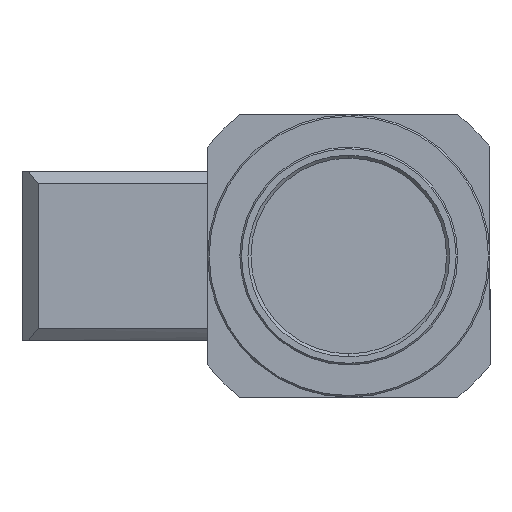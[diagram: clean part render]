
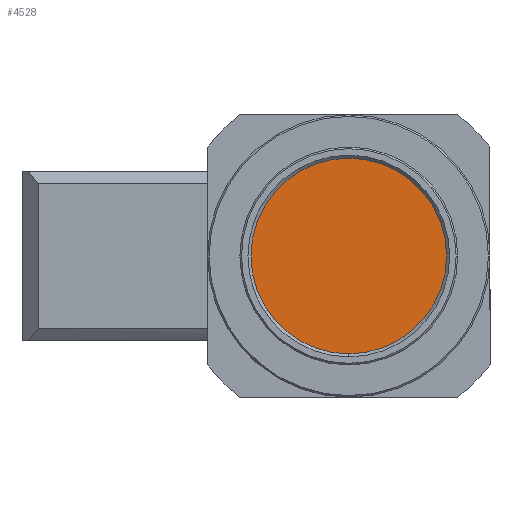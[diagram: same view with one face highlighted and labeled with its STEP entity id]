
A CAD part, left-side view. The second image highlights one B-rep face of the part: STEP entity #4528.
In plain terms, the highlighted planar face has unit normal (-1, 0, 0).
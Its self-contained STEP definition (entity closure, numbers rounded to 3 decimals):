
#371 = ORIENTED_EDGE ( 'NONE', *, *, #3888, .T. ) ;
#396 = AXIS2_PLACEMENT_3D ( 'NONE', #1294, #2114, #4944 ) ;
#573 = VERTEX_POINT ( 'NONE', #4808 ) ;
#650 = EDGE_CURVE ( 'NONE', #2698, #573, #913, .T. ) ;
#887 = PLANE ( 'NONE',  #396 ) ;
#913 = CIRCLE ( 'NONE', #4676, 12.5 ) ;
#1024 = DIRECTION ( 'NONE',  ( -1., 0., 0. ) ) ;
#1214 = DIRECTION ( 'NONE',  ( -1., 0., 0. ) ) ;
#1274 = AXIS2_PLACEMENT_3D ( 'NONE', #3465, #1024, #3870 ) ;
#1294 = CARTESIAN_POINT ( 'NONE',  ( 5.01, 12.5, 0. ) ) ;
#2114 = DIRECTION ( 'NONE',  ( 1., 0., 0. ) ) ;
#2190 = ORIENTED_EDGE ( 'NONE', *, *, #650, .T. ) ;
#2484 = EDGE_LOOP ( 'NONE', ( #371, #2190 ) ) ;
#2698 = VERTEX_POINT ( 'NONE', #3942 ) ;
#3465 = CARTESIAN_POINT ( 'NONE',  ( 5.01, 0., 0. ) ) ;
#3659 = CARTESIAN_POINT ( 'NONE',  ( 5.01, 0., 0. ) ) ;
#3677 = CIRCLE ( 'NONE', #1274, 12.5 ) ;
#3870 = DIRECTION ( 'NONE',  ( 0., 0., 1. ) ) ;
#3888 = EDGE_CURVE ( 'NONE', #573, #2698, #3677, .T. ) ;
#3942 = CARTESIAN_POINT ( 'NONE',  ( 5.01, 0., 12.5 ) ) ;
#4064 = DIRECTION ( 'NONE',  ( 0., 0., 1. ) ) ;
#4528 = ADVANCED_FACE ( 'NONE', ( #5050 ), #887, .F. ) ;
#4676 = AXIS2_PLACEMENT_3D ( 'NONE', #3659, #1214, #4064 ) ;
#4808 = CARTESIAN_POINT ( 'NONE',  ( 5.01, 0., -12.5 ) ) ;
#4944 = DIRECTION ( 'NONE',  ( 0., 0., -1. ) ) ;
#5050 = FACE_OUTER_BOUND ( 'NONE', #2484, .T. ) ;
